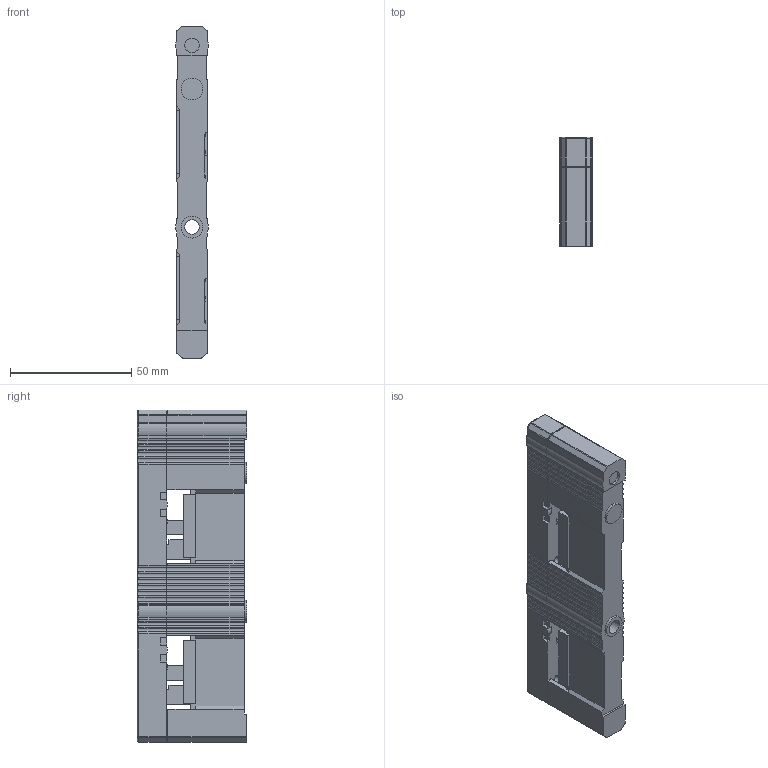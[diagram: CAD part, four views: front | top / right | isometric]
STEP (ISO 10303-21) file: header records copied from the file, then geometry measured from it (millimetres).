
FILE_DESCRIPTION (( 'STEP AP214' ), '1' );
FILE_NAME ('52602.STEP', '2021-08-11T03:21:51', ( '' ), ( '' ), 'SwSTEP 2.0', 'SolidWorks 2017', '' );
FILE_SCHEMA (( 'AUTOMOTIVE_DESIGN' ));
Length unit declared in the file: millimetre
Products named in the file (2): 52602
Bounding box: 13.46 x 45 x 137 mm (x, y, z)
Volume: 55134.4 mm3; surface area: 29866.6 mm2
Topology: 2 solids, 10 shells, 1128 faces, 3127 edges, 2061 vertices
Faces by surface type: plane 830, cylinder 256, bspline 26, cone 16
Full cylindrical faces by diameter (mm): 3 x2, 3.5 x2, 5.2 x2, 6 x3, 8.5 x1, 9 x5, 9.5 x4, 10 x2
Entity records: 48214 total; most frequent: CARTESIAN_POINT 7568, ORIENTED_EDGE 6164, DIRECTION 5563, EDGE_CURVE 3082, LINE 2463, VECTOR 2463, VERTEX_POINT 2046, AXIS2_PLACEMENT_3D 1550
